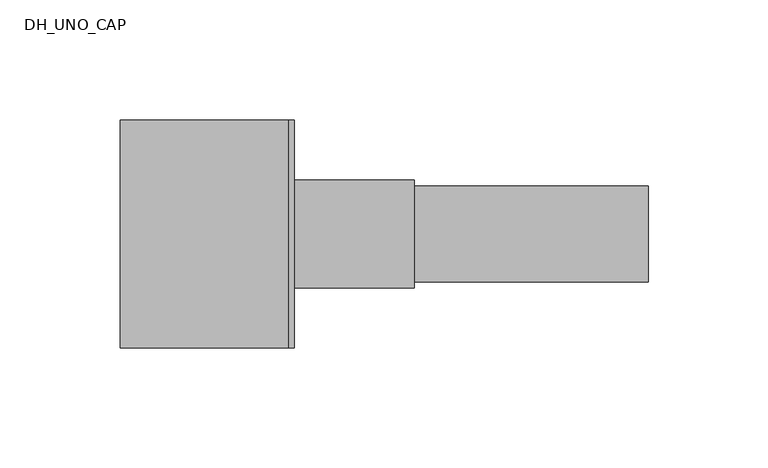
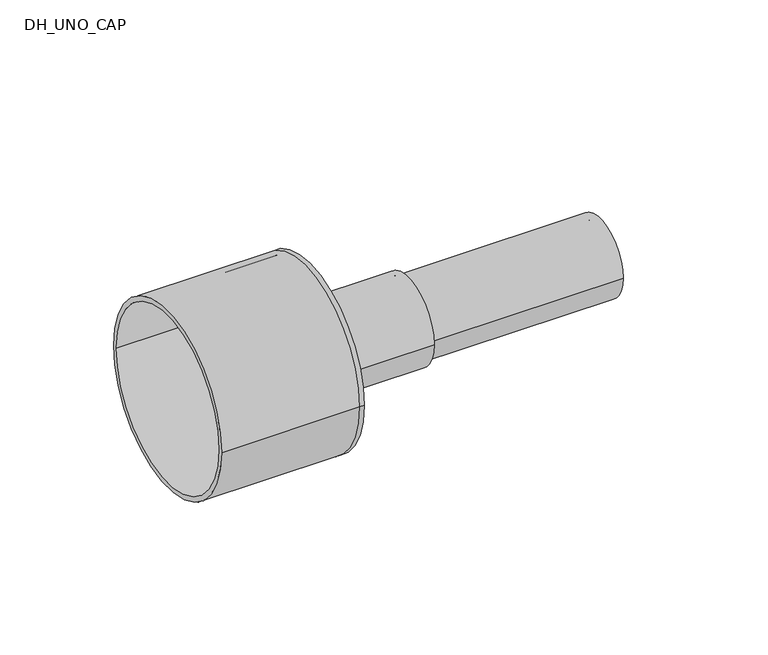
"""IFC4 building model written with IfcOpenShell, lengths in millimetres: pipe fitting geometry, DH_UNO_CAP : INSULPEX UNO 11 COOL - Rubber Cap."""

from ifc_helpers import new_model, si_unit, point, frame, origin, origin_2d, place, context, project, spatial, polyline, circle_curve, trimmed, segment, composite_curve, outline, extrude, source, transform, mapped, element, save
from ifc_brep_helpers import plane_surface, cylinder_surface, revolved_surface, advanced_brep


def dh_uno_cap_ebf1c952(model_context):
    return source(origin(), model_context, "Body", "SolidModel", [
        extrude(outline(composite_curve([segment(trimmed(circle_curve(origin_2d(), 20.0), [point((-20.0, 0.0))], [point((20.0, 0.0))], False, "CARTESIAN"), True, "CONTINUOUS"), segment(trimmed(circle_curve(origin_2d(), 20.0), [point((20.0, 0.0))], [point((-20.0, 0.0))], False, "CARTESIAN"), True, "CONTINUOUS")], self_intersect=False), holes=[composite_curve([segment(trimmed(circle_curve(origin_2d(), 16.3), [point((-16.3, 0.0))], [point((16.3, 0.0))], True, "CARTESIAN"), True, "CONTINUOUS"), segment(trimmed(circle_curve(origin_2d(), 16.3), [point((16.3, 0.0))], [point((-16.3, 0.0))], True, "CARTESIAN"), True, "CONTINUOUS")], self_intersect=False)]), frame((0.0, 0.0, 0.0), z_axis=(1.0, 0.0, 0.0), x_axis=(0.0, 1.0, 0.0)), (0.0, 0.0, 1.0), 150.0),
        advanced_brep(
        [(-70.0, -47.5, 0.0), (-70.0, 47.5, 0.0), (-70.0, -45.0, 0.0), (-70.0, 45.0, 0.0), (0.0, -45.0, 0.0), (0.0, 45.0, 0.0), (0.0, -47.5, 0.0), (0.0, 47.5, 0.0), (0.0, 20.0, 0.0), (0.0, -20.0, 0.0), (2.5, -47.5, 0.0), (2.5, 47.5, 0.0), (2.5, -20.0, 0.0), (2.5, 20.0, 0.0)],
        [
            (0, 1, circle_curve(frame((-70.0, 0.0, 0.0), z_axis=(-1.0, 0.0, 0.0), x_axis=(0.0, 1.0, 0.0)), 47.5)),
            (1, 0, circle_curve(frame((-70.0, 0.0, 0.0), z_axis=(-1.0, 0.0, 0.0), x_axis=(0.0, 1.0, 0.0)), 47.5)),
            (2, 3, circle_curve(frame((-70.0, 0.0, 0.0), z_axis=(1.0, 0.0, 0.0), x_axis=(0.0, 1.0, 0.0)), 45.0)),
            (3, 2, circle_curve(frame((-70.0, 0.0, 0.0), z_axis=(1.0, 0.0, 0.0), x_axis=(0.0, 1.0, 0.0)), 45.0)),
            (2, 4),
            (4, 5, circle_curve(frame((0.0, 0.0, 0.0), z_axis=(1.0, 0.0, 0.0), x_axis=(0.0, 1.0, 0.0)), 45.0)),
            (5, 3),
            (5, 4, circle_curve(frame((0.0, 0.0, 0.0), z_axis=(1.0, 0.0, 0.0), x_axis=(0.0, 1.0, 0.0)), 45.0)),
            (0, 6),
            (6, 7, circle_curve(frame((0.0, 0.0, 0.0), z_axis=(-1.0, 0.0, 0.0), x_axis=(0.0, 1.0, 0.0)), 47.5)),
            (7, 1),
            (7, 6, circle_curve(frame((0.0, 0.0, 0.0), z_axis=(-1.0, 0.0, 0.0), x_axis=(0.0, 1.0, 0.0)), 47.5)),
            (8, 9, circle_curve(frame((0.0, 0.0, 0.0), z_axis=(1.0, 0.0, 0.0), x_axis=(0.0, 1.0, 0.0)), 20.0)),
            (9, 8, circle_curve(frame((0.0, 0.0, 0.0), z_axis=(1.0, 0.0, 0.0), x_axis=(0.0, 1.0, 0.0)), 20.0)),
            (10, 11, circle_curve(frame((2.5, 0.0, 0.0), z_axis=(1.0, 0.0, 0.0), x_axis=(0.0, 1.0, 0.0)), 47.5)),
            (11, 10, circle_curve(frame((2.5, 0.0, 0.0), z_axis=(1.0, 0.0, 0.0), x_axis=(0.0, 1.0, 0.0)), 47.5)),
            (12, 13, circle_curve(frame((2.5, 0.0, 0.0), z_axis=(-1.0, 0.0, 0.0), x_axis=(0.0, 1.0, 0.0)), 20.0)),
            (13, 12, circle_curve(frame((2.5, 0.0, 0.0), z_axis=(-1.0, 0.0, 0.0), x_axis=(0.0, 1.0, 0.0)), 20.0)),
            (11, 7),
            (6, 10),
            (8, 13),
            (12, 9),
        ],
        [
            plane_surface(frame((-70.0, 0.0, 0.0), z_axis=(-1.0, 0.0, 0.0), x_axis=(0.0, 0.0, 1.0))),
            revolved_surface(polyline([(0.0, 45.0, 0.0), (-70.0, 45.0, 0.0)]), (-70.0, 0.0, 0.0), (1.0, 0.0, 0.0)),
            cylinder_surface(frame((-70.0, 0.0, 0.0), z_axis=(-1.0, 0.0, 0.0), x_axis=(0.0, 1.0, 0.0)), 47.5),
            plane_surface(frame((0.0, 0.0, 0.0), z_axis=(-1.0, 0.0, 0.0), x_axis=(0.0, 0.0, 1.0))),
            plane_surface(frame((2.5, 0.0, 0.0), z_axis=(1.0, 0.0, 0.0), x_axis=(0.0, 0.0, 1.0))),
            cylinder_surface(frame((0.0, 0.0, 0.0), z_axis=(-1.0, 0.0, 0.0), x_axis=(0.0, 1.0, 0.0)), 47.5),
            revolved_surface(polyline([(0.0, 20.0, 0.0), (2.5, 20.0, 0.0)]), (0.0, 0.0, 0.0), (-1.0, 0.0, 0.0)),
        ],
        [
            (0, [[1, 2], [3, 4]]),
            (1, [[-3, 5, 6, 7]]),
            (1, [[-4, -7, 8, -5]]),
            (2, [[-1, 9, 10, 11]]),
            (2, [[-2, -11, 12, -9]]),
            (3, [[-6, -8], [13, 14]]),
            (4, [[15, 16], [17, 18]]),
            (5, [[-16, 19, -10, 20]]),
            (5, [[-15, -20, -12, -19]]),
            (6, [[21, -17, 22, -13]]),
            (6, [[-21, -14, -22, -18]]),
        ],
    ),
        extrude(outline(composite_curve([segment(trimmed(circle_curve(origin_2d(), 22.5), [point((-22.5, 0.0))], [point((22.5, 0.0))], False, "CARTESIAN"), True, "CONTINUOUS"), segment(trimmed(circle_curve(origin_2d(), 22.5), [point((22.5, 0.0))], [point((-22.5, 0.0))], False, "CARTESIAN"), True, "CONTINUOUS")], self_intersect=False), holes=[composite_curve([segment(trimmed(circle_curve(origin_2d(), 20.0), [point((-20.0, 0.0))], [point((20.0, 0.0))], True, "CARTESIAN"), True, "CONTINUOUS"), segment(trimmed(circle_curve(origin_2d(), 20.0), [point((20.0, 0.0))], [point((-20.0, 0.0))], True, "CARTESIAN"), True, "CONTINUOUS")], self_intersect=False)]), frame((2.5, 0.0, 0.0), z_axis=(1.0, 0.0, 0.0), x_axis=(0.0, 1.0, 0.0)), (0.0, 0.0, 1.0), 50.0),
    ])


if __name__ == "__main__":
    model = new_model("IFC4")
    model_context = context("Model", 3, world=origin())
    ifc_project = project(units=[si_unit("LENGTHUNIT", "METRE", prefix="MILLI")], contexts=[model_context])
    site = spatial("IfcSite", under=ifc_project)
    building = spatial("IfcBuilding", under=site)
    placement = place(None, origin())
    dh_uno_cap_shape = dh_uno_cap_ebf1c952(model_context)
    element("IfcPipeFitting", 1, ObjectType="DH_UNO_CAP : INSULPEX UNO 11 COOL - Rubber Cap", at=placement, inside=building, context=model_context, shape_type="MappedRepresentation", body=[
        mapped(dh_uno_cap_shape, transform((0.0, 0.0, 0.0), x_axis=(1.0, 0.0, 0.0), y_axis=(0.0, 1.0, 0.0), z_axis=(0.0, 0.0, 1.0))),
    ])
    save(model, "model.ifc")
